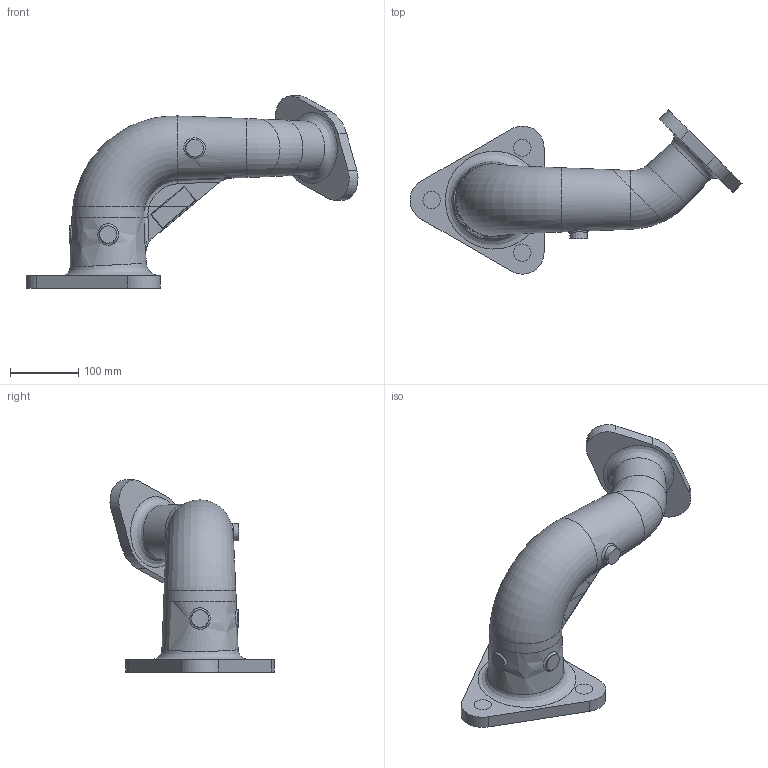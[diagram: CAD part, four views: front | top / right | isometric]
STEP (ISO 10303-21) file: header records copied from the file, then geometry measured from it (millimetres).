
FILE_DESCRIPTION(/* description */ ('CAx-IF Rec.Pracs.---Representation and Presentation of Product Manufacturing Information (PMI)---4.0---2014-10-13','CAx-IF Rec.Pracs.---3D Tessellated Geometry---0.4---2014-09-14','2;1'),/* implementation_level */ '2;1');
FILE_NAME(/* name */ 'DB083060_0001',/* time_stamp */ '2020-04-22T15:29:34+02:00',/* author */ (''),/* organization */ (''),/* preprocessor_version */ 'ST-DEVELOPER v16.7',/* originating_system */ $,/* authorisation */ $);
FILE_SCHEMA (('AP242_MANAGED_MODEL_BASED_3D_ENGINEERING_MIM_LF { 1 0 10303 442 20130219 1 4 }'));
Products named in the file (11): DB083060_0001; DB083060_0001-SPECIMEN CASTING ADAG_POINTS; DB083060_0001-SPECIMEN CASTING ADAG_WF; DB083060_0001-SPECIMEN CASTING ADAG_SOLIDS; Section Geometry; D300_SECTION_A-A; SectionCurvesOf_D300_SECTION_A-A; D300_SECTION_B-B; SectionCurvesOf_D300_SECTION_B-B; D300_SECTION_C-C; SectionCurvesOf_D300_SECTION_C-C
Assembly tree (10 placements, depth 4):
  DB083060_0001
    DB083060_0001-SPECIMEN CASTING ADAG_POINTS
    DB083060_0001-SPECIMEN CASTING ADAG_WF
    DB083060_0001-SPECIMEN CASTING ADAG_SOLIDS
    Section Geometry
      D300_SECTION_A-A
        SectionCurvesOf_D300_SECTION_A-A
      D300_SECTION_B-B
        SectionCurvesOf_D300_SECTION_B-B
      D300_SECTION_C-C
        SectionCurvesOf_D300_SECTION_C-C
Bounding box: 487.6 x 240.93 x 282.36 mm (x, y, z)
Volume: 2512630.3 mm3; surface area: 572060.2 mm2
Topology: 3 solids, 3 shells, 115 faces, 390 edges, 408 vertices
Faces by surface type: bspline 48, plane 43, cylinder 23, cone 1
Entity records: 50329 total; most frequent: CARTESIAN_POINT 43555, DIRECTION 654, ORIENTED_EDGE 472, SHAPE_ASPECT 327, GEOMETRIC_ITEM_SPECIFIC_USAGE 319, PRESENTATION_STYLE_ASSIGNMENT 306, AXIS2_PLACEMENT_3D 288, EDGE_CURVE 236
